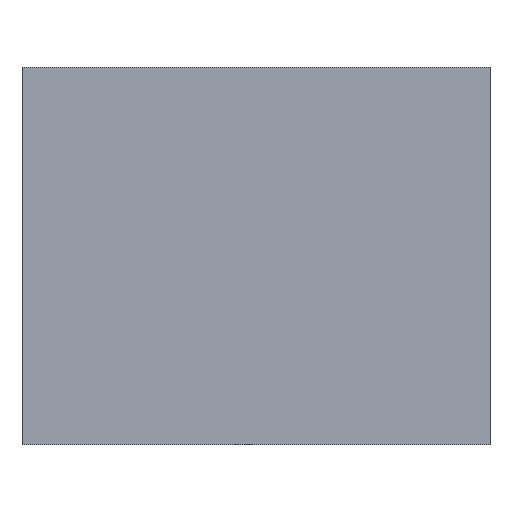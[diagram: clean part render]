
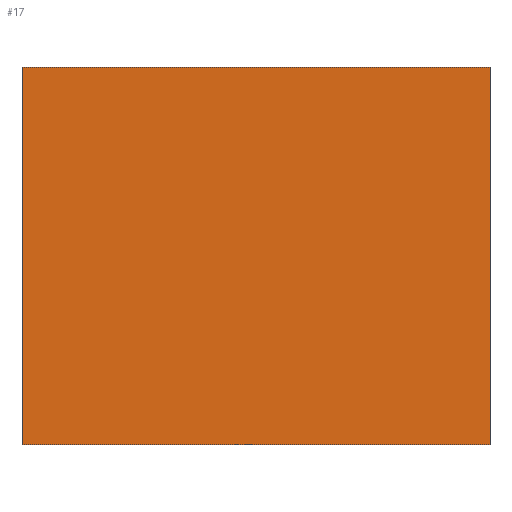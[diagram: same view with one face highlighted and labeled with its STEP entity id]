
A CAD part, left-side view. The second image highlights one B-rep face of the part: STEP entity #17.
In plain terms, the highlighted planar face has unit normal (-1, 0, 0).
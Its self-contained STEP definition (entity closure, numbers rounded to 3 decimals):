
#17 = ADVANCED_FACE('',(#18),#32,.F.);
#18 = FACE_BOUND('',#19,.F.);
#19 = EDGE_LOOP('',(#20,#55,#83,#111));
#20 = ORIENTED_EDGE('',*,*,#21,.F.);
#21 = EDGE_CURVE('',#22,#24,#26,.T.);
#22 = VERTEX_POINT('',#23);
#23 = CARTESIAN_POINT('',(-37.,9.5,-16.8));
#24 = VERTEX_POINT('',#25);
#25 = CARTESIAN_POINT('',(-37.,9.5,-4.7));
#26 = SURFACE_CURVE('',#27,(#31,#43),.PCURVE_S1.);
#27 = LINE('',#28,#29);
#28 = CARTESIAN_POINT('',(-37.,9.5,-16.8));
#29 = VECTOR('',#30,1.);
#30 = DIRECTION('',(0.,0.,1.));
#31 = PCURVE('',#32,#37);
#32 = PLANE('',#33);
#33 = AXIS2_PLACEMENT_3D('',#34,#35,#36);
#34 = CARTESIAN_POINT('',(-37.,9.5,-16.8));
#35 = DIRECTION('',(1.,0.,-0.));
#36 = DIRECTION('',(0.,0.,1.));
#37 = DEFINITIONAL_REPRESENTATION('',(#38),#42);
#38 = LINE('',#39,#40);
#39 = CARTESIAN_POINT('',(0.,0.));
#40 = VECTOR('',#41,1.);
#41 = DIRECTION('',(1.,0.));
#42 = ( GEOMETRIC_REPRESENTATION_CONTEXT(2) 
PARAMETRIC_REPRESENTATION_CONTEXT() REPRESENTATION_CONTEXT('2D SPACE',''
  ) );
#43 = PCURVE('',#44,#49);
#44 = PLANE('',#45);
#45 = AXIS2_PLACEMENT_3D('',#46,#47,#48);
#46 = CARTESIAN_POINT('',(-37.,9.5,-16.8));
#47 = DIRECTION('',(-0.,1.,0.));
#48 = DIRECTION('',(0.,0.,1.));
#49 = DEFINITIONAL_REPRESENTATION('',(#50),#54);
#50 = LINE('',#51,#52);
#51 = CARTESIAN_POINT('',(0.,0.));
#52 = VECTOR('',#53,1.);
#53 = DIRECTION('',(1.,0.));
#54 = ( GEOMETRIC_REPRESENTATION_CONTEXT(2) 
PARAMETRIC_REPRESENTATION_CONTEXT() REPRESENTATION_CONTEXT('2D SPACE',''
  ) );
#55 = ORIENTED_EDGE('',*,*,#56,.T.);
#56 = EDGE_CURVE('',#22,#57,#59,.T.);
#57 = VERTEX_POINT('',#58);
#58 = CARTESIAN_POINT('',(-37.,24.5,-16.8));
#59 = SURFACE_CURVE('',#60,(#64,#71),.PCURVE_S1.);
#60 = LINE('',#61,#62);
#61 = CARTESIAN_POINT('',(-37.,9.5,-16.8));
#62 = VECTOR('',#63,1.);
#63 = DIRECTION('',(-0.,1.,0.));
#64 = PCURVE('',#32,#65);
#65 = DEFINITIONAL_REPRESENTATION('',(#66),#70);
#66 = LINE('',#67,#68);
#67 = CARTESIAN_POINT('',(0.,0.));
#68 = VECTOR('',#69,1.);
#69 = DIRECTION('',(0.,-1.));
#70 = ( GEOMETRIC_REPRESENTATION_CONTEXT(2) 
PARAMETRIC_REPRESENTATION_CONTEXT() REPRESENTATION_CONTEXT('2D SPACE',''
  ) );
#71 = PCURVE('',#72,#77);
#72 = PLANE('',#73);
#73 = AXIS2_PLACEMENT_3D('',#74,#75,#76);
#74 = CARTESIAN_POINT('',(-37.,9.5,-16.8));
#75 = DIRECTION('',(0.,0.,1.));
#76 = DIRECTION('',(1.,0.,-0.));
#77 = DEFINITIONAL_REPRESENTATION('',(#78),#82);
#78 = LINE('',#79,#80);
#79 = CARTESIAN_POINT('',(0.,0.));
#80 = VECTOR('',#81,1.);
#81 = DIRECTION('',(0.,1.));
#82 = ( GEOMETRIC_REPRESENTATION_CONTEXT(2) 
PARAMETRIC_REPRESENTATION_CONTEXT() REPRESENTATION_CONTEXT('2D SPACE',''
  ) );
#83 = ORIENTED_EDGE('',*,*,#84,.T.);
#84 = EDGE_CURVE('',#57,#85,#87,.T.);
#85 = VERTEX_POINT('',#86);
#86 = CARTESIAN_POINT('',(-37.,24.5,-4.7));
#87 = SURFACE_CURVE('',#88,(#92,#99),.PCURVE_S1.);
#88 = LINE('',#89,#90);
#89 = CARTESIAN_POINT('',(-37.,24.5,-16.8));
#90 = VECTOR('',#91,1.);
#91 = DIRECTION('',(0.,0.,1.));
#92 = PCURVE('',#32,#93);
#93 = DEFINITIONAL_REPRESENTATION('',(#94),#98);
#94 = LINE('',#95,#96);
#95 = CARTESIAN_POINT('',(0.,-15.));
#96 = VECTOR('',#97,1.);
#97 = DIRECTION('',(1.,0.));
#98 = ( GEOMETRIC_REPRESENTATION_CONTEXT(2) 
PARAMETRIC_REPRESENTATION_CONTEXT() REPRESENTATION_CONTEXT('2D SPACE',''
  ) );
#99 = PCURVE('',#100,#105);
#100 = PLANE('',#101);
#101 = AXIS2_PLACEMENT_3D('',#102,#103,#104);
#102 = CARTESIAN_POINT('',(-37.,24.5,-16.8));
#103 = DIRECTION('',(-0.,1.,0.));
#104 = DIRECTION('',(0.,0.,1.));
#105 = DEFINITIONAL_REPRESENTATION('',(#106),#110);
#106 = LINE('',#107,#108);
#107 = CARTESIAN_POINT('',(0.,0.));
#108 = VECTOR('',#109,1.);
#109 = DIRECTION('',(1.,0.));
#110 = ( GEOMETRIC_REPRESENTATION_CONTEXT(2) 
PARAMETRIC_REPRESENTATION_CONTEXT() REPRESENTATION_CONTEXT('2D SPACE',''
  ) );
#111 = ORIENTED_EDGE('',*,*,#112,.F.);
#112 = EDGE_CURVE('',#24,#85,#113,.T.);
#113 = SURFACE_CURVE('',#114,(#118,#125),.PCURVE_S1.);
#114 = LINE('',#115,#116);
#115 = CARTESIAN_POINT('',(-37.,9.5,-4.7));
#116 = VECTOR('',#117,1.);
#117 = DIRECTION('',(-0.,1.,0.));
#118 = PCURVE('',#32,#119);
#119 = DEFINITIONAL_REPRESENTATION('',(#120),#124);
#120 = LINE('',#121,#122);
#121 = CARTESIAN_POINT('',(12.1,0.));
#122 = VECTOR('',#123,1.);
#123 = DIRECTION('',(0.,-1.));
#124 = ( GEOMETRIC_REPRESENTATION_CONTEXT(2) 
PARAMETRIC_REPRESENTATION_CONTEXT() REPRESENTATION_CONTEXT('2D SPACE',''
  ) );
#125 = PCURVE('',#126,#131);
#126 = PLANE('',#127);
#127 = AXIS2_PLACEMENT_3D('',#128,#129,#130);
#128 = CARTESIAN_POINT('',(-37.,9.5,-4.7));
#129 = DIRECTION('',(0.,0.,1.));
#130 = DIRECTION('',(1.,0.,-0.));
#131 = DEFINITIONAL_REPRESENTATION('',(#132),#136);
#132 = LINE('',#133,#134);
#133 = CARTESIAN_POINT('',(0.,0.));
#134 = VECTOR('',#135,1.);
#135 = DIRECTION('',(0.,1.));
#136 = ( GEOMETRIC_REPRESENTATION_CONTEXT(2) 
PARAMETRIC_REPRESENTATION_CONTEXT() REPRESENTATION_CONTEXT('2D SPACE',''
  ) );
